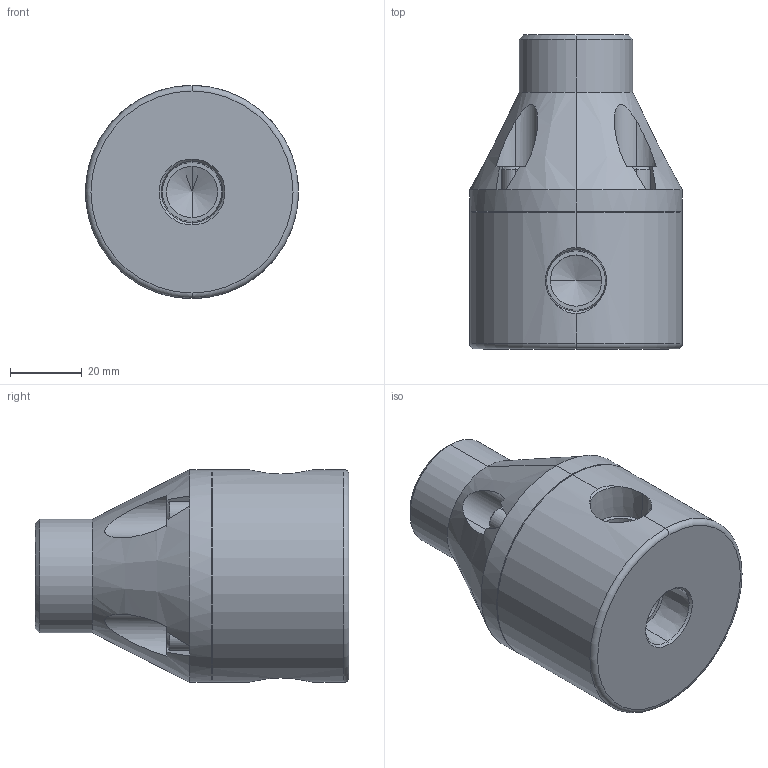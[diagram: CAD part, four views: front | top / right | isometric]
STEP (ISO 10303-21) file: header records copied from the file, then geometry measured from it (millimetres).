
FILE_DESCRIPTION (( 'STEP AP203' ), '1' );
FILE_NAME ('MPR0375-NPT.STEP', '2015-03-17T10:19:19', ( 'Dan Bernard' ), ( '' ), 'SwSTEP 2.0', 'SolidWorks 2008', '' );
FILE_SCHEMA (( 'CONFIG_CONTROL_DESIGN' ));
Length unit declared in the file: inch
Products named in the file (1): MPR0375-NPT
Bounding box: 59.44 x 87.63 x 59.44 mm (x, y, z)
Volume: 166791.2 mm3; surface area: 25422.1 mm2
Topology: 1 solids, 1 shells, 139 faces, 336 edges, 209 vertices
Faces by surface type: plane 71, cone 34, cylinder 32, torus 2
Entity records: 4437 total; most frequent: CARTESIAN_POINT 1111, DIRECTION 686, ORIENTED_EDGE 660, EDGE_CURVE 330, AXIS2_PLACEMENT_3D 246, VERTEX_POINT 209, LINE 194, VECTOR 194
